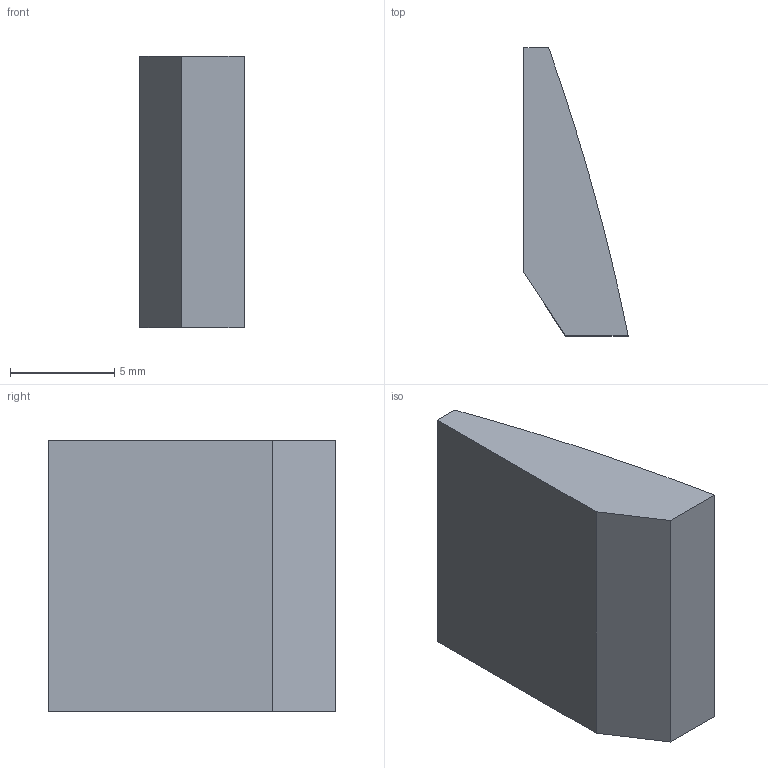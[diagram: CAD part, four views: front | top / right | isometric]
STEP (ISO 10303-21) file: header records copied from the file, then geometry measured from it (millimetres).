
FILE_DESCRIPTION(('Open CASCADE Model'),'2;1');
FILE_NAME('Open CASCADE Shape Model','2026-10-16T00:29:53',('Author'),( 'Open CASCADE'),'Open CASCADE STEP processor 7.9','Open CASCADE 7.9' ,'Unknown');
FILE_SCHEMA(('AUTOMOTIVE_DESIGN { 1 0 10303 214 1 1 1 1 }'));
Length unit declared in the file: millimetre
Products named in the file (1): Open CASCADE STEP translator 7.9 17
Bounding box: 5 x 13.8 x 13 mm (x, y, z)
Volume: 546.3 mm3; surface area: 511.9 mm2
Topology: 1 solids, 1 shells, 14 faces, 36 edges, 24 vertices
Faces by surface type: plane 14
Entity records: 898 total; most frequent: CARTESIAN_POINT 147, DIRECTION 138, LINE 108, VECTOR 108, ORIENTED_EDGE 72, PCURVE 72, DEFINITIONAL_REPRESENTATION 72, EDGE_CURVE 36
